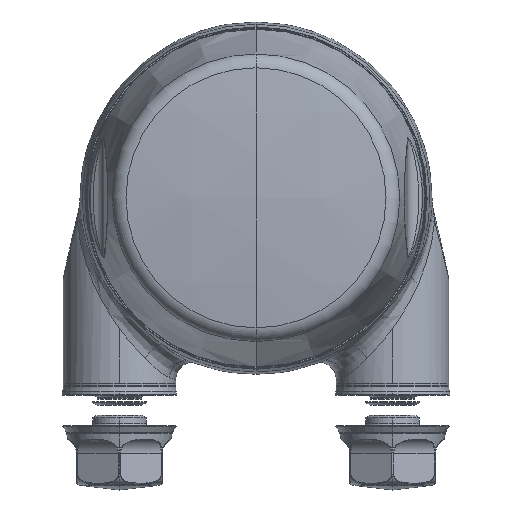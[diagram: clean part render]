
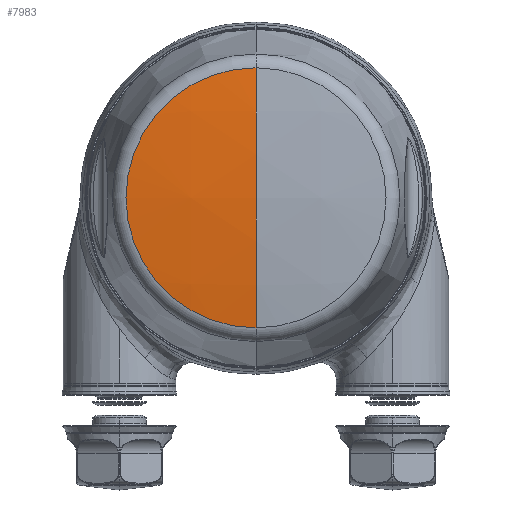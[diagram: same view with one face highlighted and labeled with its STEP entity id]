
A CAD part, top view. The second image highlights one B-rep face of the part: STEP entity #7983.
In plain terms, the highlighted spherical face has radius 200 mm.
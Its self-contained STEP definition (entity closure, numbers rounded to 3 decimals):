
#290 = AXIS2_PLACEMENT_3D ( 'NONE', #15280, #12159, #11838 ) ;
#3039 = SPHERICAL_SURFACE ( 'NONE', #17919, 200. ) ;
#3231 = DIRECTION ( 'NONE',  ( 0., -1., 0. ) ) ;
#3297 = EDGE_CURVE ( 'NONE', #19210, #16898, #16816, .T. ) ;
#3483 = DIRECTION ( 'NONE',  ( -1., 0., 0. ) ) ;
#4989 = CARTESIAN_POINT ( 'NONE',  ( 0., 0., -158.249 ) ) ;
#5088 = DIRECTION ( 'NONE',  ( 0., -1., 0. ) ) ;
#5141 = CIRCLE ( 'NONE', #5160, 200. ) ;
#5160 = AXIS2_PLACEMENT_3D ( 'NONE', #19497, #14229, #3231 ) ;
#5238 = CARTESIAN_POINT ( 'NONE',  ( 0., -24.283, 40.272 ) ) ;
#5612 = DIRECTION ( 'NONE',  ( 0., 0., 1. ) ) ;
#6765 = VERTEX_POINT ( 'NONE', #16925 ) ;
#7983 = ADVANCED_FACE ( 'NONE', ( #11243 ), #3039, .T. ) ;
#8929 = AXIS2_PLACEMENT_3D ( 'NONE', #8946, #5612, #18667 ) ;
#8946 = CARTESIAN_POINT ( 'NONE',  ( 0., 0., 40.272 ) ) ;
#9810 = ORIENTED_EDGE ( 'NONE', *, *, #3297, .F. ) ;
#11243 = FACE_OUTER_BOUND ( 'NONE', #13155, .T. ) ;
#11838 = DIRECTION ( 'NONE',  ( 0., 1., 0. ) ) ;
#12159 = DIRECTION ( 'NONE',  ( 1., 0., 0. ) ) ;
#12437 = EDGE_CURVE ( 'NONE', #6765, #16898, #18228, .T. ) ;
#12561 = EDGE_CURVE ( 'NONE', #19210, #6765, #5141, .T. ) ;
#13155 = EDGE_LOOP ( 'NONE', ( #9810, #13589, #18263 ) ) ;
#13589 = ORIENTED_EDGE ( 'NONE', *, *, #12561, .T. ) ;
#14229 = DIRECTION ( 'NONE',  ( -1., 0., 0. ) ) ;
#14937 = CARTESIAN_POINT ( 'NONE',  ( 0., 0., 41.751 ) ) ;
#15280 = CARTESIAN_POINT ( 'NONE',  ( 0., 0., -158.249 ) ) ;
#16816 = CIRCLE ( 'NONE', #290, 200. ) ;
#16898 = VERTEX_POINT ( 'NONE', #5238 ) ;
#16925 = CARTESIAN_POINT ( 'NONE',  ( 0., 24.283, 40.272 ) ) ;
#17919 = AXIS2_PLACEMENT_3D ( 'NONE', #4989, #3483, #5088 ) ;
#18228 = CIRCLE ( 'NONE', #8929, 24.283 ) ;
#18263 = ORIENTED_EDGE ( 'NONE', *, *, #12437, .T. ) ;
#18667 = DIRECTION ( 'NONE',  ( 0., 1., 0. ) ) ;
#19210 = VERTEX_POINT ( 'NONE', #14937 ) ;
#19497 = CARTESIAN_POINT ( 'NONE',  ( 0., 0., -158.249 ) ) ;
